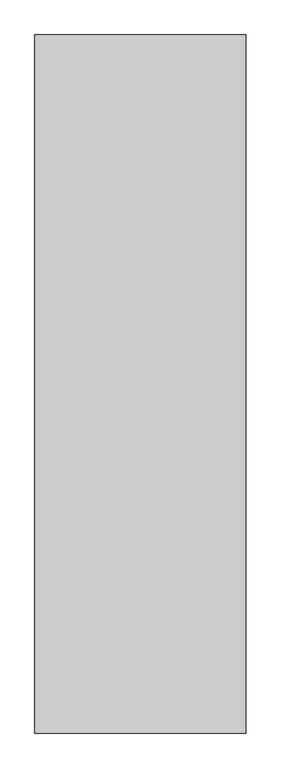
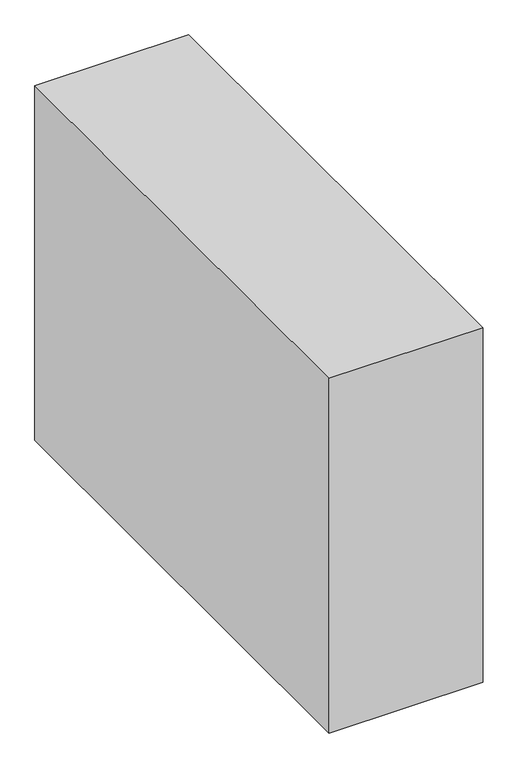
"""IFC4 building model written with IfcOpenShell, lengths in millimetres: proxy geometry."""

from ifc_helpers import new_model, si_unit, frame, origin, place, context, project, spatial, polyline, outline, extrude, source, transform, mapped, element, save


def generic_models_96710d23(model_context):
    return source(origin(), model_context, "Body", "SweptSolid", [
        extrude(outline(polyline([(15591.0851766, -1624.0), (14671.0851766, -1624.0), (14671.0851766, 1424.0), (15591.0851766, 1424.0), (15591.0851766, -1624.0)])), frame((0.0, 0.0, 800.0), z_axis=(0.0, 0.0, 1.0), x_axis=(1.0, 0.0, 0.0)), (0.0, 0.0, 1.0), 2240.0),
    ])


if __name__ == "__main__":
    model = new_model("IFC4")
    model_context = context("Model", 3, world=origin())
    ifc_project = project(units=[si_unit("LENGTHUNIT", "METRE", prefix="MILLI")], contexts=[model_context])
    site = spatial("IfcSite", under=ifc_project)
    building = spatial("IfcBuilding", under=site)
    placement = place(None, origin())
    generic_models_shape = generic_models_96710d23(model_context)
    element("IfcBuildingElementProxy", 1, Name="Generic Models", at=placement, inside=building, context=model_context, shape_type="MappedRepresentation", body=[
        mapped(generic_models_shape, transform((0.0, 0.0, 0.0), x_axis=(1.0, 0.0, 0.0), y_axis=(0.0, 1.0, 0.0), z_axis=(0.0, 0.0, 1.0))),
    ])
    save(model, "model.ifc")
